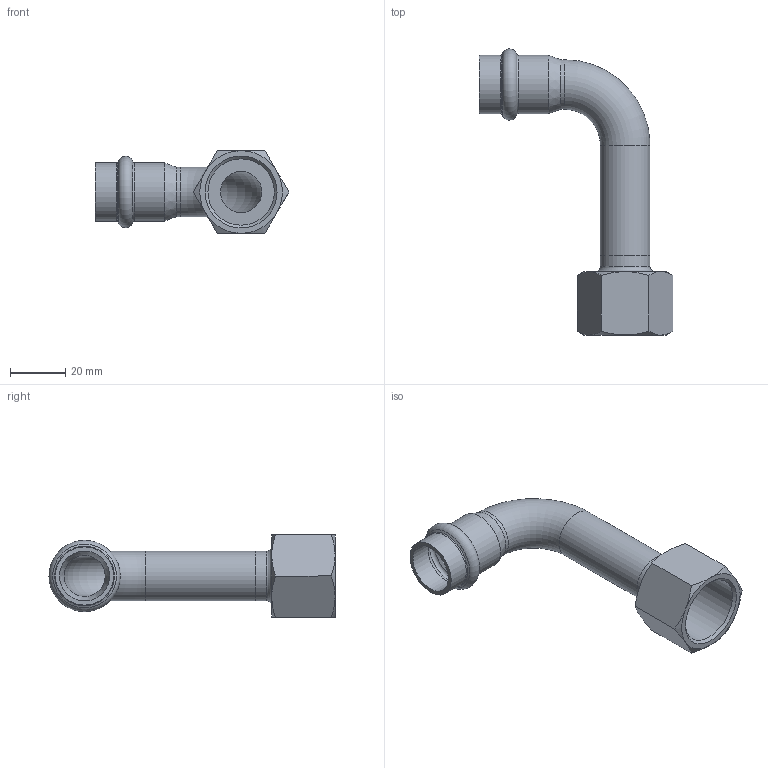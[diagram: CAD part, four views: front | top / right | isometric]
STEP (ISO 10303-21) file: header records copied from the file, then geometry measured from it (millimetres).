
FILE_DESCRIPTION((''),'2;1');
FILE_NAME('G:\Technics\CAD\Bauteile\018\69002G1834(1).stp','2008-01-31T09:25:18',('herberg'),(''),'Autodesk Inventor 2008','Autodesk Inventor 2008','');
FILE_SCHEMA(('AUTOMOTIVE_DESIGN { 1 0 10303 214 1 1 1 1 }'));
Length unit declared in the file: millimetre
Products named in the file (3): 69002G1834(1); 69001A18(1); IG1834(1)
Assembly tree (2 placements, depth 2):
  69002G1834(1)
    69001A18(1)
    IG1834(1)
Bounding box: 70.32 x 103.94 x 30 mm (x, y, z)
Volume: 17895.1 mm3; surface area: 17763.5 mm2
Topology: 2 solids, 2 shells, 49 faces, 104 edges, 61 vertices
Faces by surface type: cone 17, plane 11, cylinder 9, bspline 8, torus 4
Full cylindrical faces by diameter (mm): 15 x2, 18 x3, 18.15 x2, 21.15 x2
Entity records: 1404 total; most frequent: CARTESIAN_POINT 485, DIRECTION 182, ORIENTED_EDGE 144, AXIS2_PLACEMENT_3D 88, EDGE_LOOP 80, EDGE_CURVE 72, VERTEX_POINT 54, FACE_OUTER_BOUND 49
